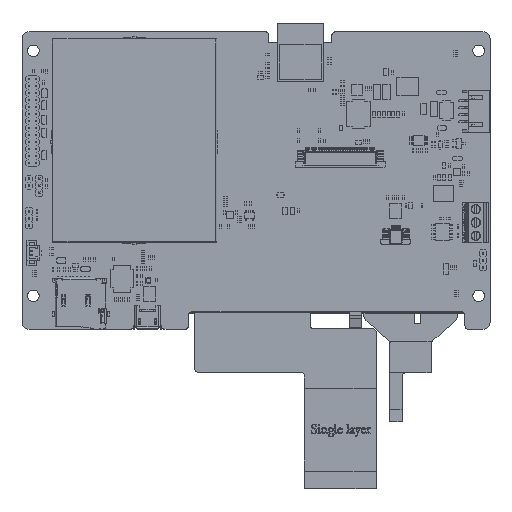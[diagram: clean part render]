
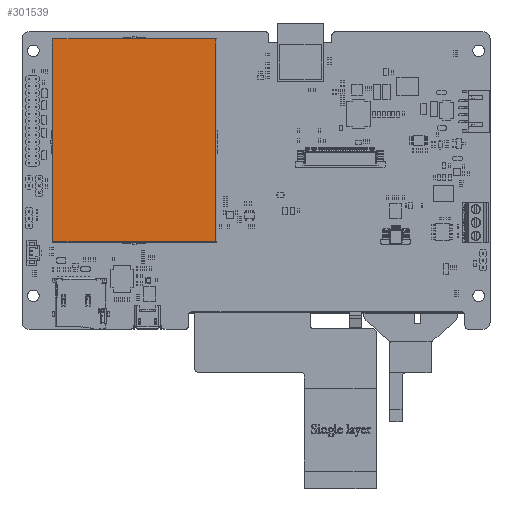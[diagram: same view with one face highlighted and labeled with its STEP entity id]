
A CAD part, top view. The second image highlights one B-rep face of the part: STEP entity #301539.
In plain terms, the highlighted planar face has unit normal (0, 0, 1).
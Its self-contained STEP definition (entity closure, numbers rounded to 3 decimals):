
#300770=DIRECTION('',(1.,0.,0.));
#300771=VECTOR('',#300770,57.95);
#300772=CARTESIAN_POINT('',(-28.975,23.275,0.2));
#300773=LINE('',#300772,#300771);
#300947=DIRECTION('',(0.,1.,0.));
#300948=VECTOR('',#300947,46.55);
#300949=CARTESIAN_POINT('',(-28.975,-23.275,0.2));
#300950=LINE('',#300949,#300948);
#300965=DIRECTION('',(0.,-1.,0.));
#300966=VECTOR('',#300965,46.55);
#300967=CARTESIAN_POINT('',(28.975,23.275,0.2));
#300968=LINE('',#300967,#300966);
#301016=DIRECTION('',(-1.,0.,0.));
#301017=VECTOR('',#301016,57.95);
#301018=CARTESIAN_POINT('',(28.975,-23.275,0.2));
#301019=LINE('',#301018,#301017);
#301081=CARTESIAN_POINT('',(-28.975,-23.275,0.2));
#301082=VERTEX_POINT('',#301081);
#301083=CARTESIAN_POINT('',(28.975,-23.275,0.2));
#301084=VERTEX_POINT('',#301083);
#301093=CARTESIAN_POINT('',(28.975,23.275,0.2));
#301094=VERTEX_POINT('',#301093);
#301095=CARTESIAN_POINT('',(-28.975,23.275,0.2));
#301096=VERTEX_POINT('',#301095);
#301526=CARTESIAN_POINT('',(0.,0.,0.2));
#301527=DIRECTION('',(0.,0.,1.));
#301528=DIRECTION('',(1.,0.,0.));
#301529=AXIS2_PLACEMENT_3D('',#301526,#301527,#301528);
#301530=PLANE('',#301529);
#301532=ORIENTED_EDGE('',*,*,#301531,.T.);
#301534=ORIENTED_EDGE('',*,*,#301533,.T.);
#301535=ORIENTED_EDGE('',*,*,#301518,.T.);
#301536=ORIENTED_EDGE('',*,*,#301198,.T.);
#301537=EDGE_LOOP('',(#301532,#301534,#301535,#301536));
#301538=FACE_OUTER_BOUND('',#301537,.F.);
#301539=ADVANCED_FACE('',(#301538),#301530,.T.);
#301198=EDGE_CURVE('',#301096,#301094,#300773,.T.);
#301518=EDGE_CURVE('',#301082,#301096,#300950,.T.);
#301531=EDGE_CURVE('',#301094,#301084,#300968,.T.);
#301533=EDGE_CURVE('',#301084,#301082,#301019,.T.);
